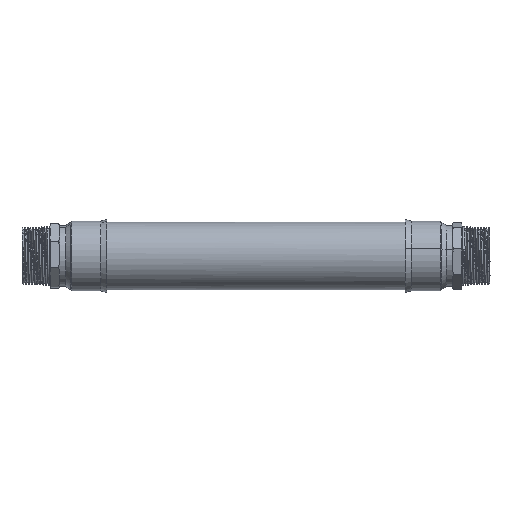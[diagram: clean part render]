
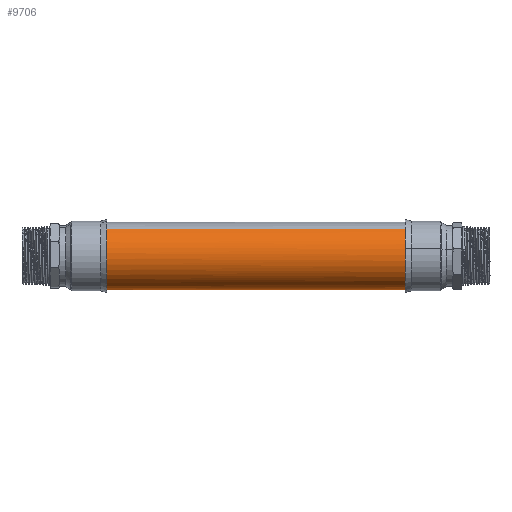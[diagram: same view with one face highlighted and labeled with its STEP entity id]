
A CAD part, front view. The second image highlights one B-rep face of the part: STEP entity #9706.
In plain terms, the highlighted cylindrical face has radius 28 mm (diameter 56 mm), a partial arc.
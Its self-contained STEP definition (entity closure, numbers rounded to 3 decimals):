
#21 = AXIS2_PLACEMENT_3D ( 'NONE', #18532, #18528, #18534 ) ;
#108 = CARTESIAN_POINT ( 'NONE',  ( -481.344, 0., 71.953 ) ) ;
#109 = DIRECTION ( 'NONE',  ( -1., 0., 0. ) ) ;
#110 = DIRECTION ( 'NONE',  ( 0., -1., 0. ) ) ;
#908 = EDGE_CURVE ( 'NONE', #7934, #7956, #3113, .T. ) ;
#926 = EDGE_CURVE ( 'NONE', #8002, #7934, #3094, .T. ) ;
#968 = EDGE_CURVE ( 'NONE', #15844, #8003, #13750, .T. ) ;
#1853 = CIRCLE ( 'NONE', #1858, 28. ) ;
#1858 = AXIS2_PLACEMENT_3D ( 'NONE', #3562, #3563, #3564 ) ;
#1874 = VECTOR ( 'NONE', #3603, 1000. ) ;
#1877 = VECTOR ( 'NONE', #3609, 1000. ) ;
#3091 = AXIS2_PLACEMENT_3D ( 'NONE', #9595, #9596, #9597 ) ;
#3094 = CIRCLE ( 'NONE', #3091, 28. ) ;
#3108 = AXIS2_PLACEMENT_3D ( 'NONE', #8138, #8139, #8140 ) ;
#3113 = CIRCLE ( 'NONE', #3108, 28. ) ;
#3562 = CARTESIAN_POINT ( 'NONE',  ( -481.344, 0., 71.953 ) ) ;
#3563 = DIRECTION ( 'NONE',  ( -1., 0., 0. ) ) ;
#3564 = DIRECTION ( 'NONE',  ( 0., -1., 0. ) ) ;
#3589 = LINE ( 'NONE', #3590, #1874 ) ;
#3590 = CARTESIAN_POINT ( 'NONE',  ( -759.513, -17.165, 94.074 ) ) ;
#3598 = LINE ( 'NONE', #3599, #1877 ) ;
#3599 = CARTESIAN_POINT ( 'NONE',  ( -759.513, 17.165, 49.831 ) ) ;
#3603 = DIRECTION ( 'NONE',  ( 1., 0., 0. ) ) ;
#3609 = DIRECTION ( 'NONE',  ( 1., 0., 0. ) ) ;
#5785 = CARTESIAN_POINT ( 'NONE',  ( -731.772, 9.431, 45.589 ) ) ;
#5807 = CARTESIAN_POINT ( 'NONE',  ( -731.772, 17.165, 49.831 ) ) ;
#5853 = CARTESIAN_POINT ( 'NONE',  ( -731.772, -17.165, 94.074 ) ) ;
#5854 = CARTESIAN_POINT ( 'NONE',  ( -481.344, -17.165, 94.074 ) ) ;
#7431 = ORIENTED_EDGE ( 'NONE', *, *, #8957, .F. ) ;
#7432 = ORIENTED_EDGE ( 'NONE', *, *, #926, .T. ) ;
#7433 = ORIENTED_EDGE ( 'NONE', *, *, #908, .T. ) ;
#7434 = ORIENTED_EDGE ( 'NONE', *, *, #8959, .T. ) ;
#7435 = ORIENTED_EDGE ( 'NONE', *, *, #8944, .T. ) ;
#7436 = ORIENTED_EDGE ( 'NONE', *, *, #968, .T. ) ;
#7554 = EDGE_LOOP ( 'NONE', ( #7431, #7432, #7433, #7434, #7435, #7436 ) ) ;
#7934 = VERTEX_POINT ( 'NONE', #5785 ) ;
#7956 = VERTEX_POINT ( 'NONE', #5807 ) ;
#8002 = VERTEX_POINT ( 'NONE', #5853 ) ;
#8003 = VERTEX_POINT ( 'NONE', #5854 ) ;
#8138 = CARTESIAN_POINT ( 'NONE',  ( -731.772, 0., 71.953 ) ) ;
#8139 = DIRECTION ( 'NONE',  ( 1., 0., 0. ) ) ;
#8140 = DIRECTION ( 'NONE',  ( 0., 0., -1. ) ) ;
#8944 = EDGE_CURVE ( 'NONE', #15851, #15844, #1853, .T. ) ;
#8957 = EDGE_CURVE ( 'NONE', #8002, #8003, #3589, .T. ) ;
#8959 = EDGE_CURVE ( 'NONE', #7956, #15851, #3598, .T. ) ;
#9595 = CARTESIAN_POINT ( 'NONE',  ( -731.772, 0., 71.953 ) ) ;
#9596 = DIRECTION ( 'NONE',  ( 1., 0., 0. ) ) ;
#9597 = DIRECTION ( 'NONE',  ( 0., 0., -1. ) ) ;
#9706 = ADVANCED_FACE ( 'NONE', ( #18531 ), #18533, .T. ) ;
#13750 = CIRCLE ( 'NONE', #13751, 28. ) ;
#13751 = AXIS2_PLACEMENT_3D ( 'NONE', #108, #109, #110 ) ;
#15844 = VERTEX_POINT ( 'NONE', #18673 ) ;
#15851 = VERTEX_POINT ( 'NONE', #18711 ) ;
#18528 = DIRECTION ( 'NONE',  ( 1., 0., 0. ) ) ;
#18531 = FACE_OUTER_BOUND ( 'NONE', #7554, .T. ) ;
#18532 = CARTESIAN_POINT ( 'NONE',  ( -759.513, 0., 71.953 ) ) ;
#18533 = CYLINDRICAL_SURFACE ( 'NONE', #21, 28. ) ;
#18534 = DIRECTION ( 'NONE',  ( 0., 0.613, -0.79 ) ) ;
#18673 = CARTESIAN_POINT ( 'NONE',  ( -481.344, -27.388, 77.776 ) ) ;
#18711 = CARTESIAN_POINT ( 'NONE',  ( -481.344, 17.165, 49.831 ) ) ;
